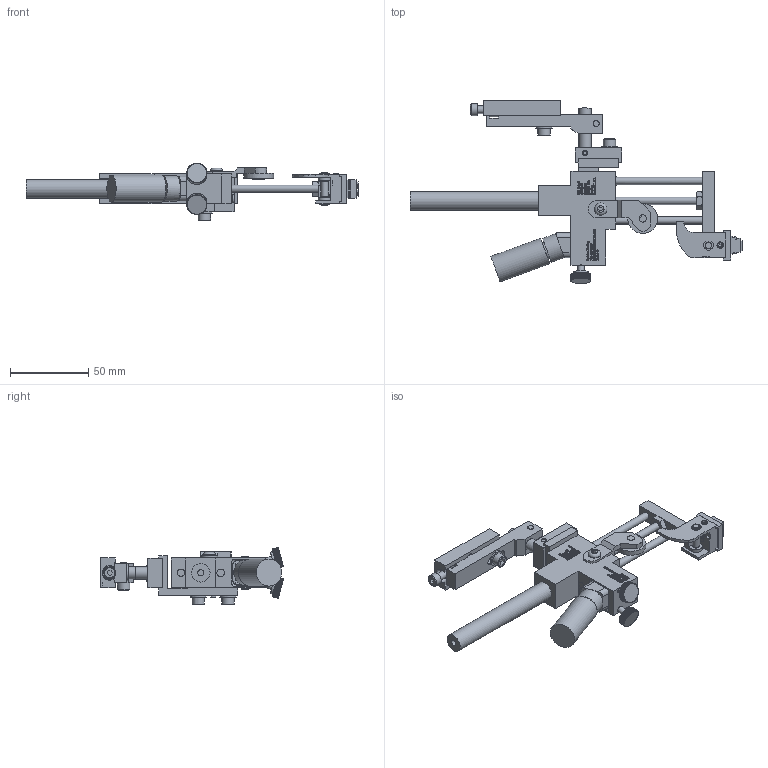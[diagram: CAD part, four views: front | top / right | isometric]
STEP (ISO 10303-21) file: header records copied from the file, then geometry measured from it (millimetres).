
FILE_DESCRIPTION((''),'2;1');
FILE_NAME('C:\Documents and Settings\Ron\My Documents\Inventor\Sprinter Drawing\Machines in Inventor\Model 44\Type\Std\Brkt\Ext\Model 44 StdType Ext w brkt.stp','2009-01-14T10:59:42',('Ron'),(''),'Autodesk Inventor 2008','Autodesk Inventor 2008','');
FILE_SCHEMA(('AUTOMOTIVE_DESIGN { 1 0 10303 214 1 1 1 1 }'));
Length unit declared in the file: inch
Products named in the file (1): Model 44 StdType Ext w brkt
Bounding box: 212.78 x 117.12 x 36.82 mm (x, y, z)
Volume: 104894.7 mm3; surface area: 50901 mm2
Topology: 30 solids, 30 shells, 6232 faces, 15480 edges, 9574 vertices
Faces by surface type: plane 4385, bspline 1322, cylinder 475, cone 46, torus 4
Full cylindrical faces by diameter (mm): 3.175 x4, 3.302 x1, 3.505 x1, 3.962 x1, 4.064 x7, 4.166 x1, 4.699 x1, 4.75 x4, 4.775 x1, 4.826 x7, 5.156 x5, 5.207 x2, 5.41 x2, 6.096 x1, 6.68 x1, 7.239 x1, 7.62 x1, 7.925 x7, 7.938 x1, 8.128 x1, 9.017 x1, 9.525 x2, 10.312 x4, 10.922 x1, 11.036 x1, 11.938 x2, 14.478 x1, 16.256 x1, 17.272 x1, 19.05 x1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
Entity records: 198545 total; most frequent: CARTESIAN_POINT 54325, ORIENTED_EDGE 30524, DIRECTION 23696, EDGE_CURVE 15262, VECTOR 11496, LINE 11496, VERTEX_POINT 9507, EDGE_LOOP 6781
